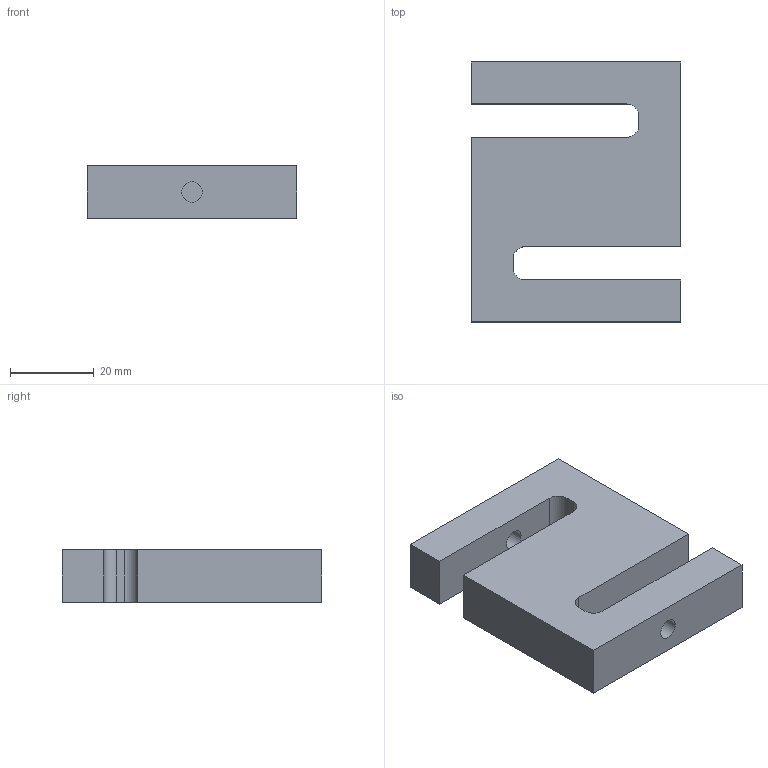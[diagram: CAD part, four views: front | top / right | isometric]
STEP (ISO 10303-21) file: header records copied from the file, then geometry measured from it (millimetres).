
FILE_DESCRIPTION(/* description */ ('Alibre Inc.'),/* implementation_level */ '2;1');
FILE_NAME(/* name */ 'export0',/* time_stamp */ '2013-08-02T08:55:06-06:00',/* author */ (''),/* organization */ (''),/* preprocessor_version */ 'ST-DEVELOPER v14',/* originating_system */ 'Alibre',/* authorisation */ '');
FILE_SCHEMA (('ALIBRE_SCHEMA','CONFIG_CONTROL_DESIGN'));
Length unit declared in the file: centimetre
Products named in the file (1): ID_1
Bounding box: 50 x 62 x 12.5 mm (x, y, z)
Volume: 30466.8 mm3; surface area: 9904.1 mm2
Topology: 1 solids, 1 shells, 20 faces, 54 edges, 36 vertices
Faces by surface type: plane 14, cylinder 6
Full cylindrical faces by diameter (mm): 4.917 x2
Entity records: 1844 total; most frequent: CARTESIAN_POINT 241, DIRECTION 160, CONSTRAINTPAIRUV 147, ORIENTED_EDGE 104, VECTOR 103, REFERENCEDEPENDENTUV 102, LINE 73, REFERENCEPOINTUV 73
